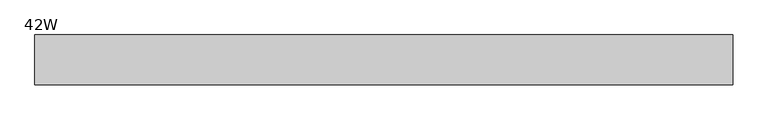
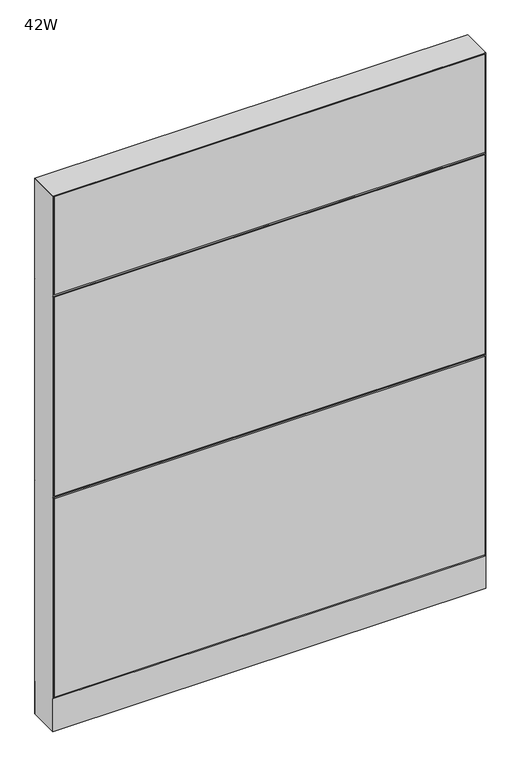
"""IFC4 building model written with IfcOpenShell, lengths in millimetres: furniture geometry, Steelcase - Montage - Frame - 55H - Enhanced Standard - Base Cavity : 42W."""

from ifc_helpers import new_model, si_unit, point, frame, frame_2d, origin, origin_with_axes, place, context, project, spatial, polyline, circle_curve, trimmed, segment, composite_curve, outline, extrude, faceted_brep, source, transform, mapped, element, save


def furniture_42w_a2eb35db(model_context):
    return source(origin(), model_context, "Body", "SolidModel", [
        extrude(outline(polyline([(3.175, 31.7500194), (3.175, 38.1000194), (1063.625, 38.1000194), (1063.625, 31.7500194), (3.175, 31.7500194)])), frame((0.0, 0.0, 92.075), z_axis=(0.0, 0.0, 1.0), x_axis=(1.0, 0.0, 0.0)), (0.0, 0.0, 1.0), 517.525),
        faceted_brep([(-5.4e-06, 38.102627, 612.7750027), (6.3499917, 31.7526299, 619.1249997), (1060.4500047, 31.7526299, 619.1249997), (1066.8, 38.1026253, 612.7750044), (1060.4500047, 31.7526299, 606.4250003), (6.3499917, 31.7526299, 606.4250003)], [[[0, 1, 2, 3]], [[3, 4, 5, 0]], [[1, 5, 4, 2]], [[0, 5, 1]], [[2, 4, 3]]]),
        faceted_brep([(-5.4e-06, 38.102627, 1136.6500027), (6.3499917, 31.7526299, 1142.9999997), (1060.4500047, 31.7526299, 1142.9999997), (1066.8, 38.1026253, 1136.6500044), (1060.4500047, 31.7526299, 1130.3000003), (6.3499917, 31.7526299, 1130.3000003)], [[[0, 1, 2, 3]], [[3, 4, 5, 0]], [[1, 5, 4, 2]], [[0, 5, 1]], [[2, 4, 3]]]),
        extrude(outline(polyline([(3.175, 31.7500194), (3.175, 38.1000194), (1063.625, 38.1000194), (1063.625, 31.7500194), (3.175, 31.7500194)])), frame((0.0, 0.0, 615.95), z_axis=(0.0, 0.0, 1.0), x_axis=(1.0, 0.0, 0.0)), (0.0, 0.0, 1.0), 517.525),
        extrude(outline(polyline([(3.175, 31.7500194), (3.175, 38.1000194), (1063.625, 38.1000194), (1063.625, 31.7500194), (3.175, 31.7500194)])), frame((0.0, 0.0, 1139.825), z_axis=(0.0, 0.0, 1.0), x_axis=(1.0, 0.0, 0.0)), (0.0, 0.0, 1.0), 255.5875),
        extrude(outline(polyline([(3.175, -31.7500194), (1063.625, -31.7500194), (1063.625, -38.1000194), (3.175, -38.1000194), (3.175, -31.7500194)])), frame((0.0, 0.0, 92.075), z_axis=(0.0, 0.0, 1.0), x_axis=(1.0, 0.0, 0.0)), (0.0, 0.0, 1.0), 517.525),
        faceted_brep([(0.0, -38.1026297, 612.775), (1066.8, -38.1026297, 612.775), (1060.4500047, -31.7526299, 619.1249997), (6.3499917, -31.7526299, 619.1249997), (6.3499917, -31.7526299, 606.4250003), (1060.4500047, -31.7526299, 606.4250003)], [[[0, 1, 2, 3]], [[1, 0, 4, 5]], [[3, 2, 5, 4]], [[0, 3, 4]], [[2, 1, 5]]]),
        faceted_brep([(0.0, -38.1026297, 1136.65), (1066.8, -38.1026297, 1136.65), (1060.4500047, -31.7526299, 1142.9999997), (6.3499917, -31.7526299, 1142.9999997), (6.3499917, -31.7526299, 1130.3000003), (1060.4500047, -31.7526299, 1130.3000003)], [[[0, 1, 2, 3]], [[1, 0, 4, 5]], [[3, 2, 5, 4]], [[0, 3, 4]], [[2, 1, 5]]]),
        extrude(outline(polyline([(3.175, -31.7500194), (1063.625, -31.7500194), (1063.625, -38.1000194), (3.175, -38.1000194), (3.175, -31.7500194)])), frame((0.0, 0.0, 615.95), z_axis=(0.0, 0.0, 1.0), x_axis=(1.0, 0.0, 0.0)), (0.0, 0.0, 1.0), 517.525),
        extrude(outline(polyline([(3.175, -31.7500194), (1063.625, -31.7500194), (1063.625, -38.1000194), (3.175, -38.1000194), (3.175, -31.7500194)])), frame((0.0, 0.0, 1139.825), z_axis=(0.0, 0.0, 1.0), x_axis=(1.0, 0.0, 0.0)), (0.0, 0.0, 1.0), 255.5875),
        extrude(outline(polyline([(6.350003, -31.7499985), (1060.449997, -31.7499985), (1066.8, -38.1000015), (0.0, -38.1000015), (6.350003, -31.7499985)])), frame((0.0, 0.0, 4.064), z_axis=(0.0, 0.0, 1.0), x_axis=(1.0, 0.0, 0.0)), (0.0, 0.0, 1.0), 84.835997),
        extrude(outline(polyline([(6.3500002, 31.7500017), (0.0, 38.1000015), (1066.8, 38.1000015), (1060.4500002, 31.7500017), (6.3500002, 31.7500017)])), frame((0.0, 0.0, 4.064), z_axis=(0.0, 0.0, 1.0), x_axis=(1.0, 0.0, 0.0)), (0.0, 0.0, 1.0), 84.835997),
        faceted_brep([(1066.8, -38.1000015, 1398.5875), (0.0, -38.1000015, 1398.5875), (6.3500484, -31.749953, 1392.2374516), (1060.4499516, -31.749953, 1392.2374516), (6.3500484, 31.749953, 1392.2374516), (1060.4499516, 31.749953, 1392.2374516), (0.0, 38.1000015, 1398.5875), (1066.8, 38.1000015, 1398.5875)], [[[0, 1, 2, 3]], [[3, 2, 4, 5]], [[6, 7, 5, 4]], [[1, 0, 7, 6]], [[2, 1, 6, 4]], [[0, 3, 5, 7]]]),
        extrude(outline(composite_curve([segment(trimmed(circle_curve(frame_2d((44.45, 0.0)), 15.24), [point((29.21, 0.0))], [point((59.69, 0.0))], False, "CARTESIAN"), True, "CONTINUOUS"), segment(trimmed(circle_curve(frame_2d((44.45, 0.0)), 15.24), [point((59.69, 0.0))], [point((29.21, 0.0))], False, "CARTESIAN"), True, "CONTINUOUS")], self_intersect=False)), origin_with_axes(), (0.0, 0.0, 1.0), 4.064),
        extrude(outline(composite_curve([segment(trimmed(circle_curve(frame_2d((1022.35, 0.0)), 15.24), [point((1007.11, 0.0))], [point((1037.59, 0.0))], False, "CARTESIAN"), True, "CONTINUOUS"), segment(trimmed(circle_curve(frame_2d((1022.35, 0.0)), 15.24), [point((1037.59, 0.0))], [point((1007.11, 0.0))], False, "CARTESIAN"), True, "CONTINUOUS")], self_intersect=False)), origin_with_axes(), (0.0, 0.0, 1.0), 4.064),
        faceted_brep([(1066.8, -38.1000106, 4.064), (1066.8, 38.1000015, 4.064), (1066.8, 38.1000015, 1398.5875), (1066.8, -38.1000106, 1398.5874637), (0.0, 38.1000015, 4.064), (0.0, -38.1000015, 4.064), (0.0, -38.1000015, 1398.5875), (0.0, 38.1000015, 1398.5875), (1060.4499879, 31.7500017, 606.425), (6.35, 31.7500017, 606.425), (6.3499998, 31.7500017, 619.125), (1060.4499879, 31.7500017, 619.125), (6.35, -31.7499985, 619.125), (1060.4499879, -31.7499985, 619.125), (6.350003, -31.7499985, 606.425), (1060.4499879, -31.7499985, 606.425), (6.35, 31.7500015, 4.064), (6.35, -31.7500015, 4.064), (1060.4499879, 31.7499894, 4.064), (1060.4499879, -31.7499985, 4.064), (6.35, 31.7500015, 1392.2375), (6.35, -31.7500015, 1392.2375), (1060.4499879, -31.7499985, 1392.2374516), (1060.4499879, 31.7499895, 1392.2374516)], [[[0, 1, 2, 3]], [[4, 5, 6, 7]], [[8, 9, 10, 11]], [[11, 10, 12, 13]], [[13, 12, 14, 15]], [[9, 8, 15, 14]], [[16, 17, 5, 4]], [[18, 1, 0, 19]], [[16, 4, 7, 20, 10, 9]], [[5, 17, 14, 12, 21, 6]], [[17, 16, 9, 14]], [[12, 10, 20, 21]], [[18, 19, 15, 8]], [[11, 13, 22, 23]], [[19, 0, 3, 22, 13, 15]], [[1, 18, 8, 11, 23, 2]], [[7, 6, 21, 20]], [[3, 2, 23, 22]]]),
    ])


if __name__ == "__main__":
    model = new_model("IFC4")
    model_context = context("Model", 3, world=origin())
    ifc_project = project(units=[si_unit("LENGTHUNIT", "METRE", prefix="MILLI")], contexts=[model_context])
    site = spatial("IfcSite", under=ifc_project)
    building = spatial("IfcBuilding", under=site)
    placement = place(None, origin())
    furniture_42w_shape = furniture_42w_a2eb35db(model_context)
    element("IfcFurniture", 1, ObjectType="Steelcase - Montage - Frame - 55H - Enhanced Standard - Base Cavity : 42W", at=placement, inside=building, context=model_context, shape_type="MappedRepresentation", body=[
        mapped(furniture_42w_shape, transform((0.0, 0.0, 0.0), x_axis=(1.0, 0.0, 0.0), y_axis=(0.0, 1.0, 0.0), z_axis=(0.0, 0.0, 1.0))),
    ])
    save(model, "model.ifc")
